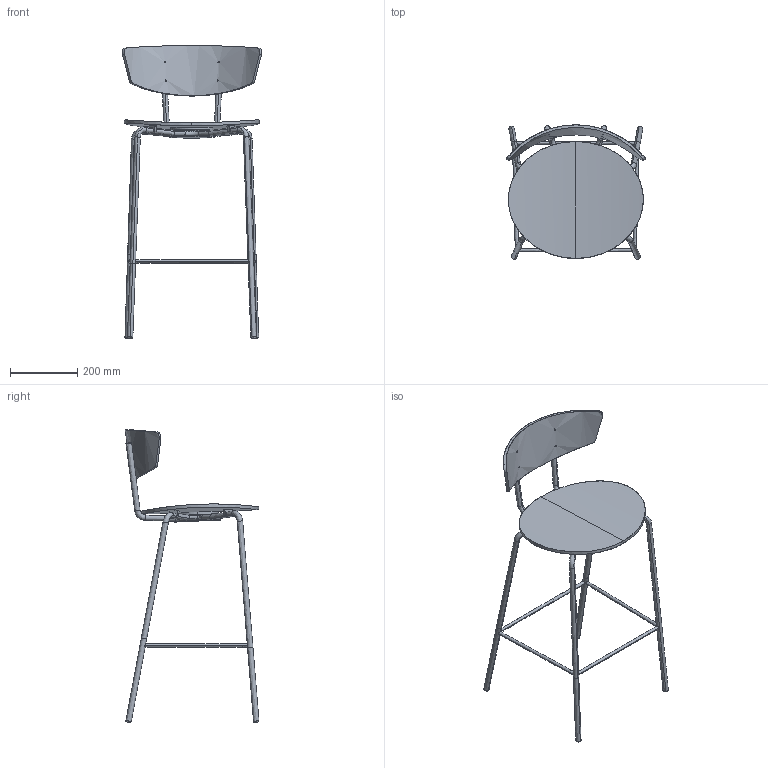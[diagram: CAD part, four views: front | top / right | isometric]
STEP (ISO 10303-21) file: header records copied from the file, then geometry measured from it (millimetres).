
FILE_DESCRIPTION(/* description */ (''),/* implementation_level */ '2;1');
FILE_NAME(/* name */ 'HXOJ4W~3',/* time_stamp */ '2018-04-06T14:56:52+02:00',/* author */ (''),/* organization */ (''),/* preprocessor_version */ 'ST-DEVELOPER v15',/* originating_system */ '',/* authorisation */ '');
FILE_SCHEMA (('AUTOMOTIVE_DESIGN'));
Length unit declared in the file: millimetre
Products named in the file (1): Document
Bounding box: 413.28 x 396.75 x 867.98 mm (x, y, z)
Surface area: 692555.9 mm2 (no closed solid volume)
Topology: 0 solids, 164 shells, 230 faces, 800 edges, 668 vertices
Faces by surface type: bspline 230
Entity records: 33728 total; most frequent: CARTESIAN_POINT 26109, B_SPLINE_CURVE_WITH_KNOTS 1217, ORIENTED_EDGE 932, PCURVE 932, DEFINITIONAL_REPRESENTATION 932, SURFACE_CURVE 800, EDGE_CURVE 800, VERTEX_POINT 668
